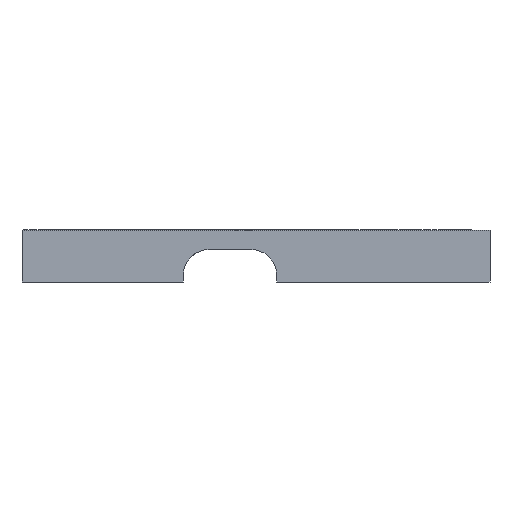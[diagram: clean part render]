
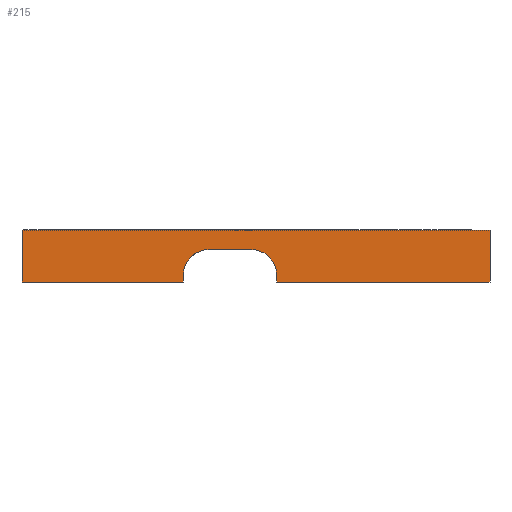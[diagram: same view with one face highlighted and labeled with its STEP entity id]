
A CAD part, front view. The second image highlights one B-rep face of the part: STEP entity #215.
In plain terms, the highlighted planar face has unit normal (0, -1, 0).
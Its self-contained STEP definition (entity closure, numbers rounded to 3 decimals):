
#157=CIRCLE('',#964,1.);
#158=CIRCLE('',#965,1.);
#215=ADVANCED_FACE('',(#267),#255,.F.);
#255=PLANE('',#966);
#267=FACE_OUTER_BOUND('',#309,.T.);
#309=EDGE_LOOP('',(#390,#391,#392,#393,#394,#395,#396,#397,#398,#399));
#390=ORIENTED_EDGE('',*,*,#724,.T.);
#391=ORIENTED_EDGE('',*,*,#725,.T.);
#392=ORIENTED_EDGE('',*,*,#716,.T.);
#393=ORIENTED_EDGE('',*,*,#723,.T.);
#394=ORIENTED_EDGE('',*,*,#726,.T.);
#395=ORIENTED_EDGE('',*,*,#727,.T.);
#396=ORIENTED_EDGE('',*,*,#728,.T.);
#397=ORIENTED_EDGE('',*,*,#729,.T.);
#398=ORIENTED_EDGE('',*,*,#730,.T.);
#399=ORIENTED_EDGE('',*,*,#701,.T.);
#617=VERTEX_POINT('',#1328);
#618=VERTEX_POINT('',#1330);
#631=VERTEX_POINT('',#1359);
#632=VERTEX_POINT('',#1361);
#637=VERTEX_POINT('',#1373);
#638=VERTEX_POINT('',#1377);
#639=VERTEX_POINT('',#1380);
#640=VERTEX_POINT('',#1382);
#641=VERTEX_POINT('',#1384);
#642=VERTEX_POINT('',#1386);
#701=EDGE_CURVE('',#618,#617,#827,.T.);
#716=EDGE_CURVE('',#632,#631,#837,.T.);
#723=EDGE_CURVE('',#631,#637,#841,.T.);
#724=EDGE_CURVE('',#617,#638,#842,.T.);
#725=EDGE_CURVE('',#638,#632,#843,.T.);
#726=EDGE_CURVE('',#637,#639,#157,.T.);
#727=EDGE_CURVE('',#639,#640,#844,.T.);
#728=EDGE_CURVE('',#640,#641,#158,.T.);
#729=EDGE_CURVE('',#641,#642,#845,.T.);
#730=EDGE_CURVE('',#642,#618,#846,.T.);
#827=LINE('',#1329,#890);
#837=LINE('',#1360,#900);
#841=LINE('',#1374,#904);
#842=LINE('',#1376,#905);
#843=LINE('',#1378,#906);
#844=LINE('',#1381,#907);
#845=LINE('',#1385,#908);
#846=LINE('',#1387,#909);
#890=VECTOR('',#1058,1.);
#900=VECTOR('',#1082,1.);
#904=VECTOR('',#1094,1.);
#905=VECTOR('',#1097,1.);
#906=VECTOR('',#1098,1.);
#907=VECTOR('',#1101,1.);
#908=VECTOR('',#1104,1.);
#909=VECTOR('',#1105,1.);
#964=AXIS2_PLACEMENT_3D('',#1379,#1099,#1100);
#965=AXIS2_PLACEMENT_3D('',#1383,#1102,#1103);
#966=AXIS2_PLACEMENT_3D('',#1388,#1106,#1107);
#1058=DIRECTION('',(0.,0.,1.));
#1082=DIRECTION('',(1.,0.,0.));
#1094=DIRECTION('',(0.,0.,1.));
#1097=DIRECTION('',(-1.,0.,0.));
#1098=DIRECTION('',(0.,0.,-1.));
#1099=DIRECTION('',(0.,1.,0.));
#1100=DIRECTION('',(0.,0.,1.));
#1101=DIRECTION('',(1.,0.,0.));
#1102=DIRECTION('',(0.,1.,0.));
#1103=DIRECTION('',(1.,0.,0.));
#1104=DIRECTION('',(0.,0.,-1.));
#1105=DIRECTION('',(1.,0.,0.));
#1106=DIRECTION('',(0.,1.,0.));
#1107=DIRECTION('',(0.,0.,-1.));
#1328=CARTESIAN_POINT('',(240.,0.,2.));
#1329=CARTESIAN_POINT('',(240.,0.,2.));
#1330=CARTESIAN_POINT('',(240.,0.,0.));
#1359=CARTESIAN_POINT('',(228.2,0.,0.));
#1360=CARTESIAN_POINT('',(230.2,0.,0.));
#1361=CARTESIAN_POINT('',(222.,0.,0.));
#1373=CARTESIAN_POINT('',(228.2,0.,0.25));
#1374=CARTESIAN_POINT('',(228.2,0.,0.25));
#1376=CARTESIAN_POINT('',(222.,0.,2.));
#1377=CARTESIAN_POINT('',(222.,0.,2.));
#1378=CARTESIAN_POINT('',(222.,0.,0.));
#1379=CARTESIAN_POINT('',(229.2,0.,0.25));
#1380=CARTESIAN_POINT('',(229.2,0.,1.25));
#1381=CARTESIAN_POINT('',(232.8,0.,1.25));
#1382=CARTESIAN_POINT('',(230.8,0.,1.25));
#1383=CARTESIAN_POINT('',(230.8,0.,0.25));
#1384=CARTESIAN_POINT('',(231.8,0.,0.25));
#1385=CARTESIAN_POINT('',(231.8,0.,0.));
#1386=CARTESIAN_POINT('',(231.8,0.,0.));
#1387=CARTESIAN_POINT('',(242.,0.,0.));
#1388=CARTESIAN_POINT('',(232.,0.,1.073));
